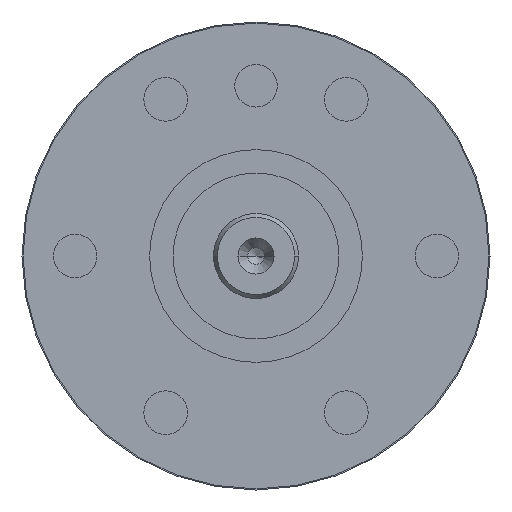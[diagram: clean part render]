
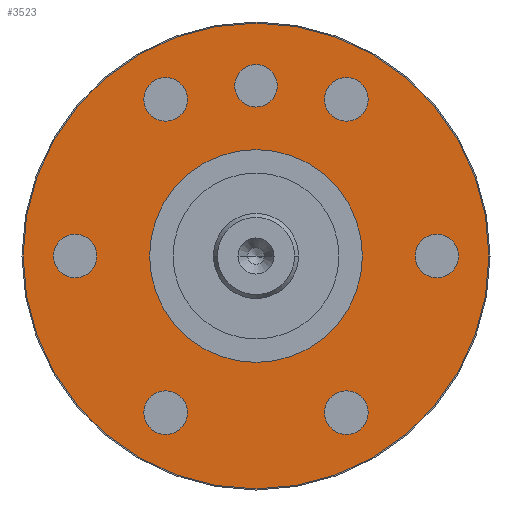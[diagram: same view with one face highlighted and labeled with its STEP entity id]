
A CAD part, left-side view. The second image highlights one B-rep face of the part: STEP entity #3523.
In plain terms, the highlighted planar face has unit normal (-1, 0, 0).
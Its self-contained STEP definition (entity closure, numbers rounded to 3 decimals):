
#183=CARTESIAN_POINT('',(-6.,0.,0.));
#184=DIRECTION('',(-1.,0.,0.));
#185=DIRECTION('',(0.,1.,0.));
#186=AXIS2_PLACEMENT_3D('',#183,#184,#185);
#198=CARTESIAN_POINT('',(-6.,0.,0.));
#199=DIRECTION('',(1.,0.,0.));
#200=DIRECTION('',(0.,1.,0.));
#201=AXIS2_PLACEMENT_3D('',#198,#199,#200);
#213=CARTESIAN_POINT('',(-6.,0.,0.));
#214=DIRECTION('',(-1.,0.,0.));
#215=DIRECTION('',(0.,1.,0.));
#216=AXIS2_PLACEMENT_3D('',#213,#214,#215);
#221=CARTESIAN_POINT('',(-6.,0.,0.));
#222=DIRECTION('',(1.,0.,0.));
#223=DIRECTION('',(0.,1.,0.));
#224=AXIS2_PLACEMENT_3D('',#221,#222,#223);
#229=CARTESIAN_POINT('',(-6.,-4.25,-7.361));
#230=DIRECTION('',(-1.,0.,0.));
#231=DIRECTION('',(0.,1.,0.));
#232=AXIS2_PLACEMENT_3D('',#229,#230,#231);
#237=CARTESIAN_POINT('',(-6.,-4.25,-7.361));
#238=DIRECTION('',(-1.,0.,0.));
#239=DIRECTION('',(0.,-1.,0.));
#240=AXIS2_PLACEMENT_3D('',#237,#238,#239);
#245=CARTESIAN_POINT('',(-6.,-8.5,0.));
#246=DIRECTION('',(-1.,0.,0.));
#247=DIRECTION('',(0.,0.5,0.866));
#248=AXIS2_PLACEMENT_3D('',#245,#246,#247);
#253=CARTESIAN_POINT('',(-6.,-8.5,0.));
#254=DIRECTION('',(-1.,0.,0.));
#255=DIRECTION('',(0.,-0.5,-0.866));
#256=AXIS2_PLACEMENT_3D('',#253,#254,#255);
#261=CARTESIAN_POINT('',(-6.,-4.25,7.361));
#262=DIRECTION('',(-1.,0.,0.));
#263=DIRECTION('',(0.,-0.5,0.866));
#264=AXIS2_PLACEMENT_3D('',#261,#262,#263);
#269=CARTESIAN_POINT('',(-6.,-4.25,7.361));
#270=DIRECTION('',(-1.,0.,0.));
#271=DIRECTION('',(0.,0.5,-0.866));
#272=AXIS2_PLACEMENT_3D('',#269,#270,#271);
#277=CARTESIAN_POINT('',(-6.,4.25,7.361));
#278=DIRECTION('',(-1.,0.,0.));
#279=DIRECTION('',(0.,-1.,0.));
#280=AXIS2_PLACEMENT_3D('',#277,#278,#279);
#285=CARTESIAN_POINT('',(-6.,4.25,7.361));
#286=DIRECTION('',(-1.,0.,0.));
#287=DIRECTION('',(0.,1.,0.));
#288=AXIS2_PLACEMENT_3D('',#285,#286,#287);
#293=CARTESIAN_POINT('',(-6.,8.5,0.));
#294=DIRECTION('',(-1.,0.,0.));
#295=DIRECTION('',(0.,-0.5,-0.866));
#296=AXIS2_PLACEMENT_3D('',#293,#294,#295);
#301=CARTESIAN_POINT('',(-6.,8.5,0.));
#302=DIRECTION('',(-1.,0.,0.));
#303=DIRECTION('',(0.,0.5,0.866));
#304=AXIS2_PLACEMENT_3D('',#301,#302,#303);
#309=CARTESIAN_POINT('',(-6.,4.25,-7.361));
#310=DIRECTION('',(-1.,0.,0.));
#311=DIRECTION('',(0.,0.5,-0.866));
#312=AXIS2_PLACEMENT_3D('',#309,#310,#311);
#317=CARTESIAN_POINT('',(-6.,4.25,-7.361));
#318=DIRECTION('',(-1.,0.,0.));
#319=DIRECTION('',(0.,-0.5,0.866));
#320=AXIS2_PLACEMENT_3D('',#317,#318,#319);
#325=CARTESIAN_POINT('',(-6.,0.,8.));
#326=DIRECTION('',(1.,0.,0.));
#327=DIRECTION('',(0.,1.,0.));
#328=AXIS2_PLACEMENT_3D('',#325,#326,#327);
#333=CARTESIAN_POINT('',(-6.,0.,8.));
#334=DIRECTION('',(1.,0.,0.));
#335=DIRECTION('',(0.,-1.,0.));
#336=AXIS2_PLACEMENT_3D('',#333,#334,#335);
#2852=CARTESIAN_POINT('',(-6.,5.,0.));
#2854=VERTEX_POINT('',#2852);
#2856=CARTESIAN_POINT('',(-6.,-5.,0.));
#2858=VERTEX_POINT('',#2856);
#2860=CARTESIAN_POINT('',(-6.,10.95,0.));
#2861=CARTESIAN_POINT('',(-6.,-10.95,0.));
#2862=VERTEX_POINT('',#2860);
#2863=VERTEX_POINT('',#2861);
#2872=CARTESIAN_POINT('',(-6.,-3.225,-7.361));
#2873=CARTESIAN_POINT('',(-6.,-5.275,-7.361));
#2874=VERTEX_POINT('',#2872);
#2875=VERTEX_POINT('',#2873);
#2876=CARTESIAN_POINT('',(-6.,-7.988,0.888));
#2877=CARTESIAN_POINT('',(-6.,-9.013,-0.888));
#2878=VERTEX_POINT('',#2876);
#2879=VERTEX_POINT('',#2877);
#2880=CARTESIAN_POINT('',(-6.,-4.763,8.249));
#2881=CARTESIAN_POINT('',(-6.,-3.738,6.474));
#2882=VERTEX_POINT('',#2880);
#2883=VERTEX_POINT('',#2881);
#2884=CARTESIAN_POINT('',(-6.,3.225,7.361));
#2885=CARTESIAN_POINT('',(-6.,5.275,7.361));
#2886=VERTEX_POINT('',#2884);
#2887=VERTEX_POINT('',#2885);
#2888=CARTESIAN_POINT('',(-6.,7.988,-0.888));
#2889=CARTESIAN_POINT('',(-6.,9.013,0.888));
#2890=VERTEX_POINT('',#2888);
#2891=VERTEX_POINT('',#2889);
#2892=CARTESIAN_POINT('',(-6.,4.763,-8.249));
#2893=CARTESIAN_POINT('',(-6.,3.738,-6.474));
#2894=VERTEX_POINT('',#2892);
#2895=VERTEX_POINT('',#2893);
#2896=CARTESIAN_POINT('',(-6.,1.,8.));
#2897=CARTESIAN_POINT('',(-6.,-1.,8.));
#2898=VERTEX_POINT('',#2896);
#2899=VERTEX_POINT('',#2897);
#3466=CARTESIAN_POINT('',(-6.,0.,0.));
#3467=DIRECTION('',(-1.,0.,0.));
#3468=DIRECTION('',(0.,1.,0.));
#3469=AXIS2_PLACEMENT_3D('',#3466,#3467,#3468);
#3470=PLANE('',#3469);
#3472=ORIENTED_EDGE('',*,*,#3471,.F.);
#3474=ORIENTED_EDGE('',*,*,#3473,.T.);
#3475=EDGE_LOOP('',(#3472,#3474));
#3476=FACE_OUTER_BOUND('',#3475,.F.);
#3477=ORIENTED_EDGE('',*,*,#3452,.F.);
#3478=ORIENTED_EDGE('',*,*,#3434,.T.);
#3479=EDGE_LOOP('',(#3477,#3478));
#3480=FACE_BOUND('',#3479,.F.);
#3482=ORIENTED_EDGE('',*,*,#3481,.T.);
#3484=ORIENTED_EDGE('',*,*,#3483,.T.);
#3485=EDGE_LOOP('',(#3482,#3484));
#3486=FACE_BOUND('',#3485,.F.);
#3488=ORIENTED_EDGE('',*,*,#3487,.T.);
#3490=ORIENTED_EDGE('',*,*,#3489,.T.);
#3491=EDGE_LOOP('',(#3488,#3490));
#3492=FACE_BOUND('',#3491,.F.);
#3494=ORIENTED_EDGE('',*,*,#3493,.T.);
#3496=ORIENTED_EDGE('',*,*,#3495,.T.);
#3497=EDGE_LOOP('',(#3494,#3496));
#3498=FACE_BOUND('',#3497,.F.);
#3500=ORIENTED_EDGE('',*,*,#3499,.T.);
#3502=ORIENTED_EDGE('',*,*,#3501,.T.);
#3503=EDGE_LOOP('',(#3500,#3502));
#3504=FACE_BOUND('',#3503,.F.);
#3506=ORIENTED_EDGE('',*,*,#3505,.T.);
#3508=ORIENTED_EDGE('',*,*,#3507,.T.);
#3509=EDGE_LOOP('',(#3506,#3508));
#3510=FACE_BOUND('',#3509,.F.);
#3512=ORIENTED_EDGE('',*,*,#3511,.T.);
#3514=ORIENTED_EDGE('',*,*,#3513,.T.);
#3515=EDGE_LOOP('',(#3512,#3514));
#3516=FACE_BOUND('',#3515,.F.);
#3518=ORIENTED_EDGE('',*,*,#3517,.F.);
#3520=ORIENTED_EDGE('',*,*,#3519,.F.);
#3521=EDGE_LOOP('',(#3518,#3520));
#3522=FACE_BOUND('',#3521,.F.);
#3523=ADVANCED_FACE('',(#3476,#3480,#3486,#3492,#3498,#3504,#3510,#3516,#3522),
#3470,.T.);
#187=CIRCLE('',#186,5.);
#202=CIRCLE('',#201,5.);
#217=CIRCLE('',#216,10.95);
#225=CIRCLE('',#224,10.95);
#233=CIRCLE('',#232,1.025);
#241=CIRCLE('',#240,1.025);
#249=CIRCLE('',#248,1.025);
#257=CIRCLE('',#256,1.025);
#265=CIRCLE('',#264,1.025);
#273=CIRCLE('',#272,1.025);
#281=CIRCLE('',#280,1.025);
#289=CIRCLE('',#288,1.025);
#297=CIRCLE('',#296,1.025);
#305=CIRCLE('',#304,1.025);
#313=CIRCLE('',#312,1.025);
#321=CIRCLE('',#320,1.025);
#329=CIRCLE('',#328,1.);
#337=CIRCLE('',#336,1.);
#3434=EDGE_CURVE('',#2854,#2858,#187,.T.);
#3452=EDGE_CURVE('',#2854,#2858,#202,.T.);
#3471=EDGE_CURVE('',#2862,#2863,#217,.T.);
#3473=EDGE_CURVE('',#2862,#2863,#225,.T.);
#3481=EDGE_CURVE('',#2874,#2875,#233,.T.);
#3483=EDGE_CURVE('',#2875,#2874,#241,.T.);
#3487=EDGE_CURVE('',#2878,#2879,#249,.T.);
#3489=EDGE_CURVE('',#2879,#2878,#257,.T.);
#3493=EDGE_CURVE('',#2882,#2883,#265,.T.);
#3495=EDGE_CURVE('',#2883,#2882,#273,.T.);
#3499=EDGE_CURVE('',#2886,#2887,#281,.T.);
#3501=EDGE_CURVE('',#2887,#2886,#289,.T.);
#3505=EDGE_CURVE('',#2890,#2891,#297,.T.);
#3507=EDGE_CURVE('',#2891,#2890,#305,.T.);
#3511=EDGE_CURVE('',#2894,#2895,#313,.T.);
#3513=EDGE_CURVE('',#2895,#2894,#321,.T.);
#3517=EDGE_CURVE('',#2898,#2899,#329,.T.);
#3519=EDGE_CURVE('',#2899,#2898,#337,.T.);
